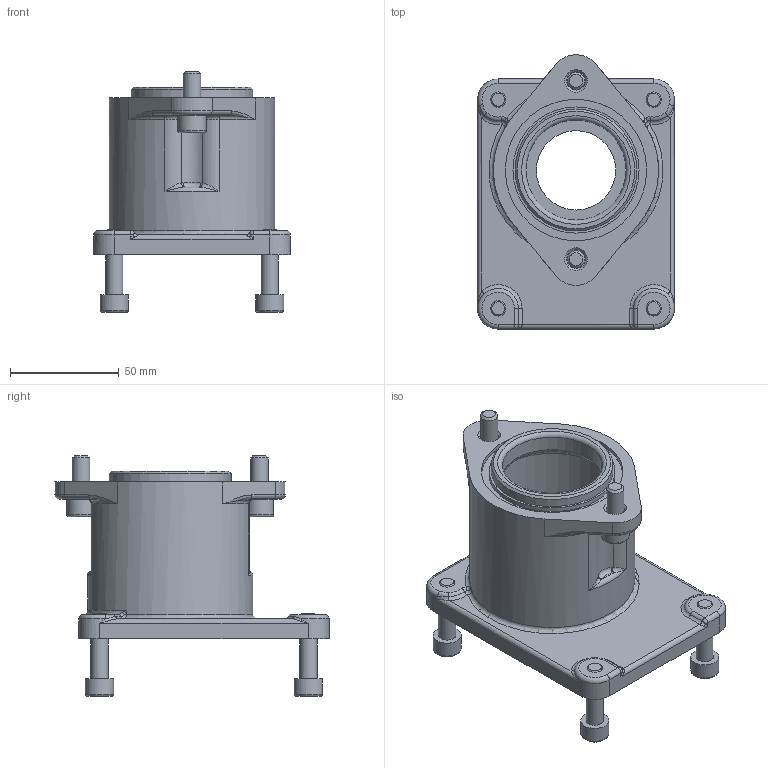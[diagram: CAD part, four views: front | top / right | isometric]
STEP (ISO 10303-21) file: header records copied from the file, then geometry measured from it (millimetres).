
FILE_DESCRIPTION(/* description */ (''),/* implementation_level */ '2;1');
FILE_NAME(/* name */ '3000011200_Semplifica_1.stp',/* time_stamp */ '2023-03-23T11:22:20+01:00',/* author */ ('marcop'),/* organization */ (''),/* preprocessor_version */ 'ST-DEVELOPER v19.2',/* originating_system */ 'Autodesk Inventor 2023',/* authorisation */ '');
FILE_SCHEMA (('AUTOMOTIVE_DESIGN { 1 0 10303 214 3 1 1 }'));
Length unit declared in the file: inch
Products named in the file (1): 3000011200_Semplifica_1
Bounding box: 90.5 x 125.97 x 110.5 mm (x, y, z)
Volume: 211830.8 mm3; surface area: 63298.4 mm2
Topology: 1 solids, 1 shells, 272 faces, 654 edges, 387 vertices
Faces by surface type: plane 116, cylinder 56, torus 40, bspline 29, cone 27, sphere 4
Full cylindrical faces by diameter (mm): 8 x6, 8.5 x2, 13 x6, 36.5 x1, 41.2 x1, 46 x1, 50 x1, 56 x1, 58 x1, 60 x1, 64 x2, 65 x1, 76 x1
Entity records: 8886 total; most frequent: CARTESIAN_POINT 2563, DIRECTION 1260, ORIENTED_EDGE 1256, EDGE_CURVE 628, AXIS2_PLACEMENT_3D 518, VERTEX_POINT 387, EDGE_LOOP 303, STYLED_ITEM 273
